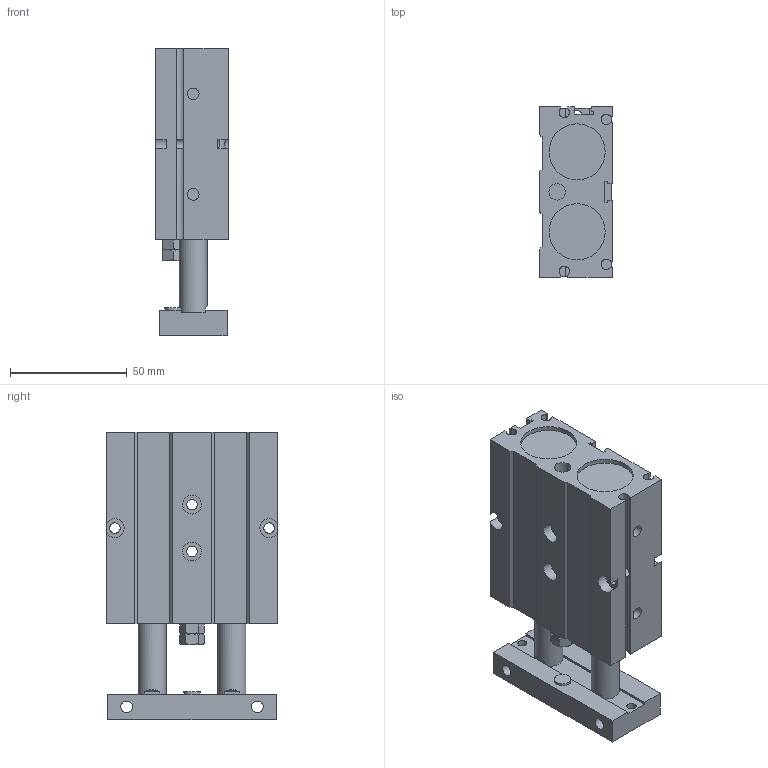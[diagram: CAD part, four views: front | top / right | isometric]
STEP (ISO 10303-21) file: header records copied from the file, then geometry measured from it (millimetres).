
FILE_DESCRIPTION((''),'2;1');
FILE_NAME('I:\3D電子目錄\氣缸\TD\TD25\TD25\TD25x20.stp','2007-08-06T09:53:44',('Administrator'),(''),'Autodesk Inventor 2008','Autodesk Inventor 2008','');
FILE_SCHEMA(('AUTOMOTIVE_DESIGN { 1 0 10303 214 1 1 1 1 }'));
Length unit declared in the file: millimetre
Products named in the file (1): TD25X20
Bounding box: 31 x 73 x 123 mm (x, y, z)
Volume: 194311.3 mm3; surface area: 39471.2 mm2
Topology: 1 solids, 3 shells, 185 faces, 476 edges, 312 vertices
Faces by surface type: plane 126, cylinder 46, cone 7, bspline 4, torus 2
Full cylindrical faces by diameter (mm): 4 x2, 4.5 x4, 5 x4, 7 x2, 8 x4, 10 x2, 11 x2, 12 x4, 24 x4
Entity records: 5781 total; most frequent: CARTESIAN_POINT 1413, DIRECTION 867, ORIENTED_EDGE 854, EDGE_CURVE 427, VERTEX_POINT 302, VECTOR 291, LINE 291, AXIS2_PLACEMENT_3D 288
